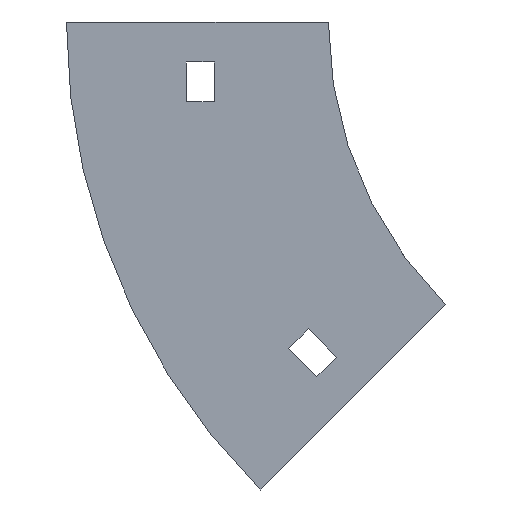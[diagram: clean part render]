
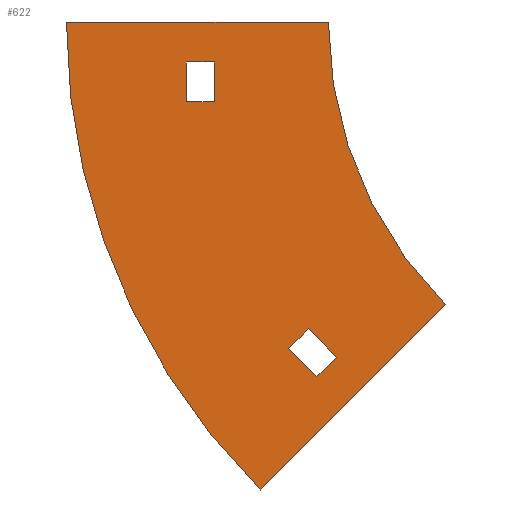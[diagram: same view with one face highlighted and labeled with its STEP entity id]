
A CAD part, left-side view. The second image highlights one B-rep face of the part: STEP entity #622.
In plain terms, the highlighted planar face has unit normal (-1, 0, 0).
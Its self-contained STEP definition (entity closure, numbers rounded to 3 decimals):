
#13 = VECTOR ( 'NONE', #559, 1000. ) ;
#26 = FACE_BOUND ( 'NONE', #796, .T. ) ;
#34 = CARTESIAN_POINT ( 'NONE',  ( -39.5, 35.5, -10. ) ) ;
#46 = AXIS2_PLACEMENT_3D ( 'NONE', #933, #854, #143 ) ;
#50 = EDGE_CURVE ( 'NONE', #337, #786, #341, .T. ) ;
#54 = CARTESIAN_POINT ( 'NONE',  ( -39.5, 35.5, -10. ) ) ;
#77 = EDGE_CURVE ( 'NONE', #159, #446, #712, .T. ) ;
#95 = DIRECTION ( 'NONE',  ( -1., 0., 0. ) ) ;
#102 = CARTESIAN_POINT ( 'NONE',  ( -39.5, -2.066, -83.792 ) ) ;
#107 = LINE ( 'NONE', #927, #1113 ) ;
#123 = DIRECTION ( 'NONE',  ( 0., 0., 1. ) ) ;
#129 = ORIENTED_EDGE ( 'NONE', *, *, #754, .F. ) ;
#131 = LINE ( 'NONE', #34, #607 ) ;
#143 = DIRECTION ( 'NONE',  ( 0., 0., 1. ) ) ;
#144 = DIRECTION ( 'NONE',  ( 0., 1., 0. ) ) ;
#154 = LINE ( 'NONE', #515, #512 ) ;
#159 = VERTEX_POINT ( 'NONE', #529 ) ;
#163 = EDGE_CURVE ( 'NONE', #950, #206, #709, .T. ) ;
#185 = ORIENTED_EDGE ( 'NONE', *, *, #939, .T. ) ;
#188 = DIRECTION ( 'NONE',  ( 0., 0., 1. ) ) ;
#193 = CARTESIAN_POINT ( 'NONE',  ( -39.5, 28.5, -10. ) ) ;
#206 = VERTEX_POINT ( 'NONE', #247 ) ;
#227 = CARTESIAN_POINT ( 'NONE',  ( -39.5, 5.005, -76.721 ) ) ;
#242 = FACE_BOUND ( 'NONE', #894, .T. ) ;
#246 = ORIENTED_EDGE ( 'NONE', *, *, #378, .F. ) ;
#247 = CARTESIAN_POINT ( 'NONE',  ( -39.5, 28.5, -20. ) ) ;
#296 = DIRECTION ( 'NONE',  ( 0., 0., 1. ) ) ;
#306 = ORIENTED_EDGE ( 'NONE', *, *, #50, .F. ) ;
#308 = CARTESIAN_POINT ( 'NONE',  ( -39.5, 2.884, -88.742 ) ) ;
#335 = ORIENTED_EDGE ( 'NONE', *, *, #163, .T. ) ;
#337 = VERTEX_POINT ( 'NONE', #845 ) ;
#341 = LINE ( 'NONE', #548, #524 ) ;
#356 = DIRECTION ( 'NONE',  ( 0., 0., -1. ) ) ;
#364 = ORIENTED_EDGE ( 'NONE', *, *, #779, .T. ) ;
#367 = DIRECTION ( 'NONE',  ( 0., 0.707, -0.707 ) ) ;
#369 = ORIENTED_EDGE ( 'NONE', *, *, #594, .F. ) ;
#378 = EDGE_CURVE ( 'NONE', #786, #1081, #526, .T. ) ;
#383 = CARTESIAN_POINT ( 'NONE',  ( -39.5, -100., 0. ) ) ;
#391 = ORIENTED_EDGE ( 'NONE', *, *, #733, .F. ) ;
#394 = ORIENTED_EDGE ( 'NONE', *, *, #715, .T. ) ;
#398 = LINE ( 'NONE', #827, #595 ) ;
#437 = CARTESIAN_POINT ( 'NONE',  ( -39.5, 17.026, -117.026 ) ) ;
#438 = DIRECTION ( 'NONE',  ( 0., 0.707, -0.707 ) ) ;
#439 = VERTEX_POINT ( 'NONE', #54 ) ;
#440 = CARTESIAN_POINT ( 'NONE',  ( -39.5, 28.5, -10. ) ) ;
#446 = VERTEX_POINT ( 'NONE', #227 ) ;
#465 = DIRECTION ( 'NONE',  ( 0., 0.707, 0.707 ) ) ;
#512 = VECTOR ( 'NONE', #144, 1000. ) ;
#515 = CARTESIAN_POINT ( 'NONE',  ( -39.5, 35.5, -20. ) ) ;
#518 = CARTESIAN_POINT ( 'NONE',  ( -39.5, 0., 0. ) ) ;
#523 = DIRECTION ( 'NONE',  ( 0., -1., 0. ) ) ;
#524 = VECTOR ( 'NONE', #367, 1000. ) ;
#526 = CIRCLE ( 'NONE', #46, 165.5 ) ;
#529 = CARTESIAN_POINT ( 'NONE',  ( -39.5, -2.066, -83.792 ) ) ;
#547 = CARTESIAN_POINT ( 'NONE',  ( -39.5, -100., 0. ) ) ;
#548 = CARTESIAN_POINT ( 'NONE',  ( -39.5, -29.289, -70.711 ) ) ;
#549 = PLANE ( 'NONE',  #929 ) ;
#559 = DIRECTION ( 'NONE',  ( 0., -0.707, -0.707 ) ) ;
#566 = DIRECTION ( 'NONE',  ( 0., -0.707, 0.707 ) ) ;
#580 = AXIS2_PLACEMENT_3D ( 'NONE', #547, #716, #123 ) ;
#588 = DIRECTION ( 'NONE',  ( 0., -1., 0. ) ) ;
#594 = EDGE_CURVE ( 'NONE', #1081, #1046, #398, .T. ) ;
#595 = VECTOR ( 'NONE', #588, 1000. ) ;
#607 = VECTOR ( 'NONE', #296, 1000. ) ;
#612 = LINE ( 'NONE', #1040, #763 ) ;
#613 = LINE ( 'NONE', #954, #13 ) ;
#616 = VERTEX_POINT ( 'NONE', #768 ) ;
#622 = ADVANCED_FACE ( 'NONE', ( #242, #984, #26 ), #549, .T. ) ;
#626 = ORIENTED_EDGE ( 'NONE', *, *, #680, .F. ) ;
#666 = CIRCLE ( 'NONE', #580, 100. ) ;
#680 = EDGE_CURVE ( 'NONE', #616, #1102, #613, .T. ) ;
#692 = LINE ( 'NONE', #882, #893 ) ;
#709 = LINE ( 'NONE', #440, #760 ) ;
#712 = LINE ( 'NONE', #102, #943 ) ;
#713 = VERTEX_POINT ( 'NONE', #934 ) ;
#715 = EDGE_CURVE ( 'NONE', #206, #713, #154, .T. ) ;
#716 = DIRECTION ( 'NONE',  ( -1., 0., 0. ) ) ;
#733 = EDGE_CURVE ( 'NONE', #446, #616, #692, .T. ) ;
#754 = EDGE_CURVE ( 'NONE', #1046, #337, #666, .T. ) ;
#760 = VECTOR ( 'NONE', #356, 1000. ) ;
#763 = VECTOR ( 'NONE', #523, 1000. ) ;
#768 = CARTESIAN_POINT ( 'NONE',  ( -39.5, 9.955, -81.671 ) ) ;
#779 = EDGE_CURVE ( 'NONE', #439, #950, #612, .T. ) ;
#786 = VERTEX_POINT ( 'NONE', #437 ) ;
#796 = EDGE_LOOP ( 'NONE', ( #1060, #923, #626, #391 ) ) ;
#827 = CARTESIAN_POINT ( 'NONE',  ( -39.5, 65.5, 0. ) ) ;
#845 = CARTESIAN_POINT ( 'NONE',  ( -39.5, -29.289, -70.711 ) ) ;
#854 = DIRECTION ( 'NONE',  ( 1., 0., 0. ) ) ;
#857 = CARTESIAN_POINT ( 'NONE',  ( -39.5, 65.5, 0. ) ) ;
#882 = CARTESIAN_POINT ( 'NONE',  ( -39.5, 9.955, -81.671 ) ) ;
#893 = VECTOR ( 'NONE', #438, 1000. ) ;
#894 = EDGE_LOOP ( 'NONE', ( #364, #335, #394, #185 ) ) ;
#910 = EDGE_CURVE ( 'NONE', #1102, #159, #107, .T. ) ;
#923 = ORIENTED_EDGE ( 'NONE', *, *, #910, .F. ) ;
#927 = CARTESIAN_POINT ( 'NONE',  ( -39.5, 2.884, -88.742 ) ) ;
#929 = AXIS2_PLACEMENT_3D ( 'NONE', #383, #95, #188 ) ;
#933 = CARTESIAN_POINT ( 'NONE',  ( -39.5, -100., 0. ) ) ;
#934 = CARTESIAN_POINT ( 'NONE',  ( -39.5, 35.5, -20. ) ) ;
#939 = EDGE_CURVE ( 'NONE', #713, #439, #131, .T. ) ;
#943 = VECTOR ( 'NONE', #465, 1000. ) ;
#950 = VERTEX_POINT ( 'NONE', #193 ) ;
#954 = CARTESIAN_POINT ( 'NONE',  ( -39.5, 2.884, -88.742 ) ) ;
#984 = FACE_OUTER_BOUND ( 'NONE', #1074, .T. ) ;
#1040 = CARTESIAN_POINT ( 'NONE',  ( -39.5, 35.5, -10. ) ) ;
#1046 = VERTEX_POINT ( 'NONE', #518 ) ;
#1060 = ORIENTED_EDGE ( 'NONE', *, *, #77, .F. ) ;
#1074 = EDGE_LOOP ( 'NONE', ( #129, #369, #246, #306 ) ) ;
#1081 = VERTEX_POINT ( 'NONE', #857 ) ;
#1102 = VERTEX_POINT ( 'NONE', #308 ) ;
#1113 = VECTOR ( 'NONE', #566, 1000. ) ;
